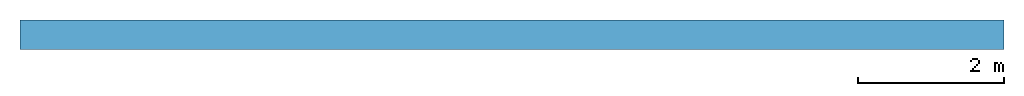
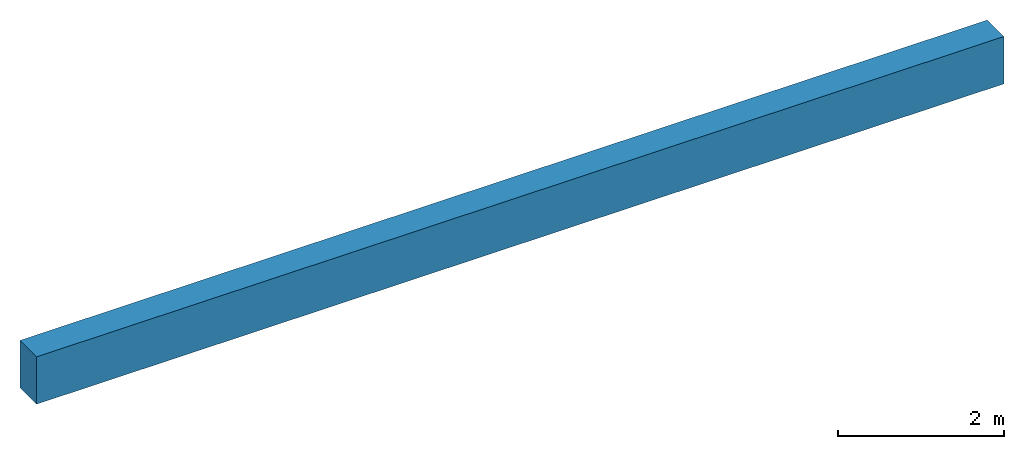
# One storey: 1 wall.
"""IFC2X3 building model written with IfcOpenShell, lengths in millimetres."""

from ifc_helpers import new_model, entity, si_unit, converted_unit, derived_unit, direction, frame, frame_2d, origin, origin_with_axes, place, context, subcontext, project, spatial, rectangle, extrude, clip, halfspace, material, layer, layer_set, layer_usage, type_object, element, save


model = new_model("IFC2X3")

# Units and contexts
model_context = context("Model", 3, precision=0.01, world=origin(), true_north=direction((6.12303176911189e-17, 1.0)))
plan_context = context("Plan", 3, precision=1e-05, world=origin_with_axes())
body_context = subcontext(model_context, "Body", "Model", "MODEL_VIEW")
ifc_project = project(units=[converted_unit("PLANEANGLEUNIT", "DEGREE", entity("IfcPositiveLengthMeasure", 0.0174532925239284), si_unit("PLANEANGLEUNIT", "RADIAN"), dimensions=[0, 0, 0, 0, 0, 0, 0]), si_unit("AREAUNIT", "SQUARE_METRE"), si_unit("LENGTHUNIT", "METRE", prefix="MILLI"), si_unit("MASSUNIT", "GRAM", prefix="KILO"), si_unit("POWERUNIT", "WATT"), si_unit("PRESSUREUNIT", "PASCAL"), si_unit("FORCEUNIT", "NEWTON", prefix="KILO"), si_unit("ELECTRICVOLTAGEUNIT", "VOLT"), si_unit("ELECTRICCURRENTUNIT", "AMPERE"), si_unit("THERMODYNAMICTEMPERATUREUNIT", "DEGREE_CELSIUS"), si_unit("TIMEUNIT", "SECOND"), si_unit("VOLUMEUNIT", "CUBIC_METRE"), derived_unit("LINEARVELOCITYUNIT", [(si_unit("LENGTHUNIT", "METRE"), 1), (si_unit("TIMEUNIT", "SECOND"), -1)]), derived_unit("VOLUMETRICFLOWRATEUNIT", [(si_unit("VOLUMEUNIT", "CUBIC_METRE"), 1), (si_unit("TIMEUNIT", "SECOND"), -1)]), derived_unit("THERMALTRANSMITTANCEUNIT", [(si_unit("POWERUNIT", "WATT"), 1), (si_unit("THERMODYNAMICTEMPERATUREUNIT", "KELVIN"), -1), (si_unit("AREAUNIT", "SQUARE_METRE"), -1)]), derived_unit("SOUNDPRESSUREUNIT", [(si_unit("PRESSUREUNIT", "PASCAL"), 1)])], contexts=[model_context, plan_context])

# Site, building, storey
site_placement = place(None, frame((2314154.5009392, 1029894.10887124, 0.0), z_axis=(0.0, 0.0, 1.0), x_axis=(1.0, 0.0, 0.0)))
site = spatial("IfcSite", under=ifc_project, at=site_placement, Name="Default", CompositionType="ELEMENT")
building_placement = place(site_placement, origin_with_axes())
building = spatial("IfcBuilding", under=site, at=building_placement, CompositionType="ELEMENT")
storey_placement = place(building_placement, frame((0.0, 0.0, 18620.0), z_axis=(0.0, 0.0, 1.0), x_axis=(1.0, 0.0, 0.0)))
storey = spatial("IfcBuildingStorey", under=building, at=storey_placement, Name="XX - C +18,62", CompositionType="ELEMENT", Elevation=18620.0)

# Wall
ifc_material = material(Name="Existing - Bridget key")
ifc_layer = layer(ifc_material, 400.0)
ifc_layer_set = layer_set([ifc_layer], Name="Basic Wall:V_Existing 400mm")
ifc_layer_usage = layer_usage(ifc_layer_set, "AXIS2", "NEGATIVE", 200.0)
wall_type = type_object("IfcWallType", Name="Basic Wall:V_Existing 400mm", PredefinedType="STANDARD", material=ifc_layer_set)
wall_placement = place(storey_placement, frame((-1636.23113438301, -8727.18485207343, -568.482133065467), z_axis=(0.0, 0.0, 1.0), x_axis=(1.0, 0.0, 0.0)))
element("IfcWallStandardCase", 1, at=wall_placement, inside=storey, type_object=wall_type, material=ifc_layer_usage, Name="Basic Wall:V_Existing 400mm", ObjectType="Basic Wall:V_Existing 400mm", context=body_context, shape_type="Clipping", body=[
    clip(extrude(rectangle(XDim=13446.5650817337, YDim=400.0, at=frame_2d((6723.28254086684, 7.105427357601e-14), x_axis=(-1.0, 0.0))), origin(), (0.0, 0.0, 1.0), 696.126335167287), halfspace(frame((13446.5650817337, -200.0, 0.0), z_axis=(0.0, 0.0, -1.0), x_axis=(0.0, 1.0, 0.0)), False)),
])

save(model, "model.ifc")
